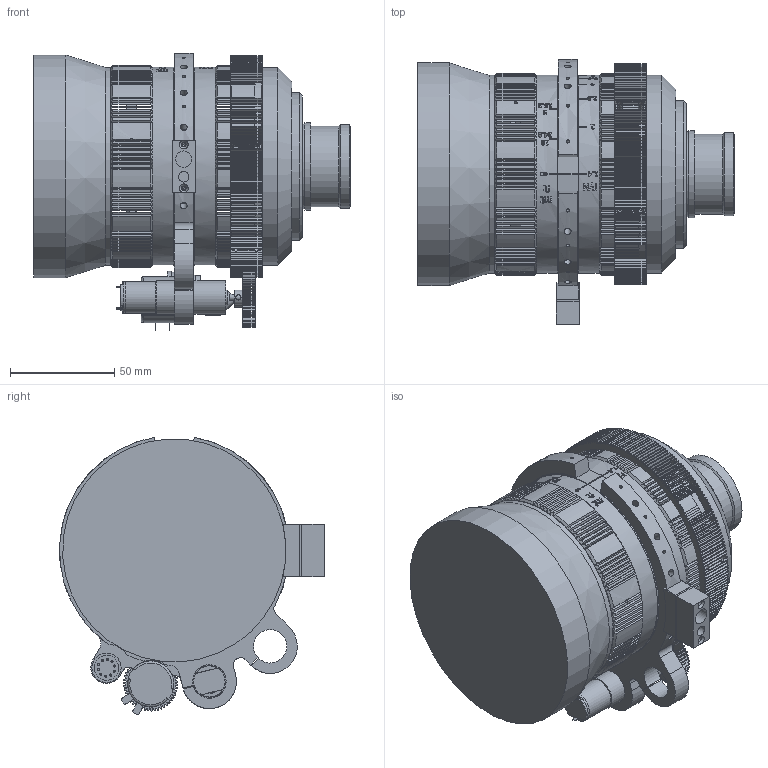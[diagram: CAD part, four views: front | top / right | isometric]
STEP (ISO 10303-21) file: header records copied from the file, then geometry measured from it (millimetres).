
FILE_DESCRIPTION((''),'2;1');
FILE_NAME('\\10.0.0.209\Doc Produ\Meccaniche\STP\A_2008\C0812\C0812_000\C0812_073.stp','2014-04-28T12:10:02',('mcilia'),(''),'Autodesk Inventor 2010','Autodesk Inventor 2010','');
FILE_SCHEMA(('AUTOMOTIVE_DESIGN { 1 0 10303 214 1 1 1 1 }'));
Length unit declared in the file: millimetre
Products named in the file (2): C0812_073_000 (Livello di dettaglio sostituto1); C0812_073
Assembly tree (1 placements, depth 2):
  C0812_073_000 (Livello di dettaglio sostituto1)
    C0812_073
Bounding box: 151.8 x 127 x 132.83 mm (x, y, z)
Surface area: 161054 mm2 (no closed solid volume)
Topology: 0 solids, 58 shells, 1463 faces, 6745 edges, 4779 vertices
Faces by surface type: cylinder 749, plane 399, cone 252, bspline 60, torus 3
Full cylindrical faces by diameter (mm): 3 x2, 3.242 x9, 6.32 x1, 7 x3, 8 x1, 9.38 x1, 11 x1, 11.1 x1, 11.9 x2, 14 x1, 15 x4, 16 x2, 22.2 x1, 38 x1, 38.5 x1, 40 x1, 40.7 x1, 42 x1, 71 x1, 90.5 x1, 95 x4, 97 x1, 107 x1
Entity records: 72722 total; most frequent: CARTESIAN_POINT 19584, DIRECTION 11748, ORIENTED_EDGE 9206, EDGE_CURVE 6584, AXIS2_PLACEMENT_3D 4914, VERTEX_POINT 4717, CIRCLE 3495, VECTOR 1920
